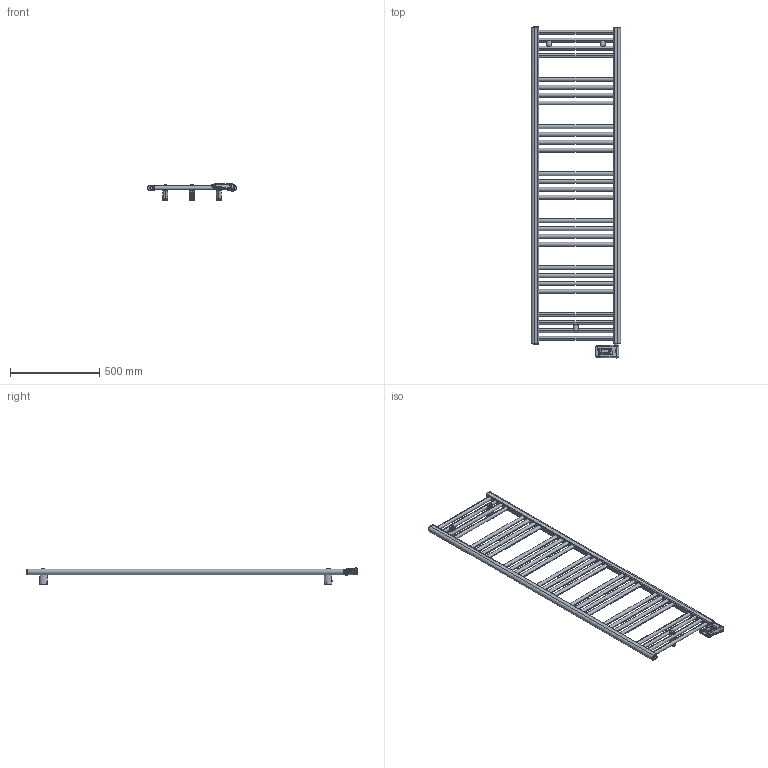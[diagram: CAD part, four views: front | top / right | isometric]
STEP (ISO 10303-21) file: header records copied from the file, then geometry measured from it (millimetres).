
FILE_DESCRIPTION((''),'2;1');
FILE_NAME('3581656100027_3D_SITO_ASM','2026-01-14T11:03:28',('PC132'),(''),'CREO PARAMETRIC BY PTC INC, 2025323','CREO PARAMETRIC BY PTC INC, 2025323','');
FILE_SCHEMA(('AUTOMOTIVE_DESIGN { 1 0 10303 214 1 1 1 1 }'));
Length unit declared in the file: millimetre
Products named in the file (15): 2551650500217_3D_SITO; BICCHIERE_PARETE; PERNO_SCORROVOLE; DADO_QUADRO_M5_X_GIUNTO; DADO_M6_X_GIUNTO; PERNO_SCORREVOLE_ASM; BASETTA_ANTERIORE; 1527181430001; VITE_CR_M5_16; VITE_CR_SV_M6_35; 1102001310058_ASM; 1010181240001; 11170_CODOLO_RES_MOD_3D_SITO; 1035270000042; 3581656100027_3D_SITO_ASM
Assembly tree (17 placements, depth 4):
  3581656100027_3D_SITO_ASM
    2551650500217_3D_SITO
    1102001310058_ASM  x3
      BICCHIERE_PARETE
      PERNO_SCORREVOLE_ASM
        PERNO_SCORROVOLE
        DADO_QUADRO_M5_X_GIUNTO
        DADO_M6_X_GIUNTO
      BASETTA_ANTERIORE
      1527181430001
      VITE_CR_M5_16
      VITE_CR_SV_M6_35
    1010181240001  x2
    11170_CODOLO_RES_MOD_3D_SITO
    1035270000042
Bounding box: 500 x 1861.29 x 91.48 mm (x, y, z)
Volume: 8484645.6 mm3; surface area: 1408084.7 mm2
Topology: 33 solids, 47 shells, 5659 faces, 12834 edges, 7274 vertices
Faces by surface type: cylinder 2122, plane 1208, torus 775, bspline 729, sphere 630, cone 123, extrusion 72
Entity records: 180410 total; most frequent: CARTESIAN_POINT 91636, DIRECTION 12133, ORIENTED_EDGE 12107, PRESENTATION_STYLE_ASSIGNMENT 6279, STYLED_ITEM 6151, CURVE_STYLE 6131, EDGE_CURVE 6079, AXIS2_PLACEMENT_3D 4755
